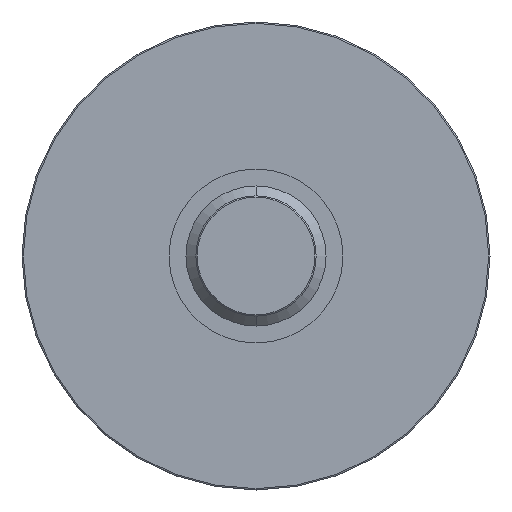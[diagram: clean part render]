
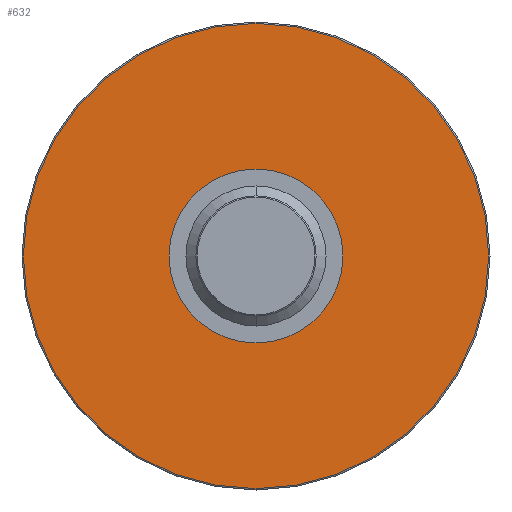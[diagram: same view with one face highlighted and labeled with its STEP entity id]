
A CAD part, front view. The second image highlights one B-rep face of the part: STEP entity #632.
In plain terms, the highlighted planar face has unit normal (0, -1, 0).
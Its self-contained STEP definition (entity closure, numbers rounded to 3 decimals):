
#508=CARTESIAN_POINT('',(0.,-5.,0.));
#509=DIRECTION('',(0.,-1.,0.));
#510=DIRECTION('',(0.,0.,1.));
#511=AXIS2_PLACEMENT_3D('',#508,#509,#510);
#513=CARTESIAN_POINT('',(0.,-5.,0.));
#514=DIRECTION('',(0.,-1.,0.));
#515=DIRECTION('',(0.,0.,-1.));
#516=AXIS2_PLACEMENT_3D('',#513,#514,#515);
#541=CARTESIAN_POINT('',(0.,-5.,34.8));
#542=CARTESIAN_POINT('',(0.,-5.,-34.8));
#543=VERTEX_POINT('',#541);
#544=VERTEX_POINT('',#542);
#622=CARTESIAN_POINT('',(0.,-5.,0.));
#623=DIRECTION('',(0.,-1.,0.));
#624=DIRECTION('',(0.,0.,1.));
#625=AXIS2_PLACEMENT_3D('',#622,#623,#624);
#626=PLANE('',#625);
#628=ORIENTED_EDGE('',*,*,#627,.F.);
#629=ORIENTED_EDGE('',*,*,#612,.F.);
#630=EDGE_LOOP('',(#628,#629));
#631=FACE_OUTER_BOUND('',#630,.F.);
#632=ADVANCED_FACE('',(#631),#626,.T.);
#512=CIRCLE('',#511,34.8);
#517=CIRCLE('',#516,34.8);
#612=EDGE_CURVE('',#544,#543,#517,.T.);
#627=EDGE_CURVE('',#543,#544,#512,.T.);
